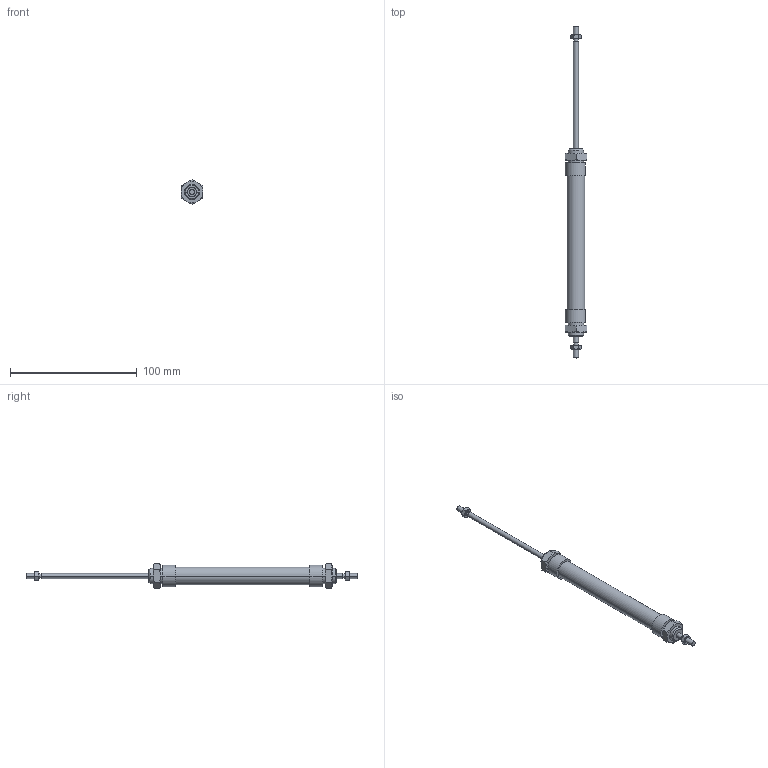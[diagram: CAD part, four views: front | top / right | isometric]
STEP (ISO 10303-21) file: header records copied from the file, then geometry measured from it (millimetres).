
FILE_DESCRIPTION((''),'2;1');
FILE_NAME('I:\DOC-EDP\Lib-3d\1200\CILINDRI\1262\1262_10_0080.stp','2003-04-02T18:57:21',('maffial1'),(''),'Autodesk Inventor (R) 6.0','Autodesk Inventor (R) 6.0','');
FILE_SCHEMA(('AUTOMOTIVE_DESIGN { 1 0 10303 214 1 1 1 1 }'));
Length unit declared in the file: millimetre
Products named in the file (5): 1262_10_0080; S1262_10_80; C1262_10_80; 1200_10_05; 1200_10_06
Assembly tree (6 placements, depth 2):
  1262_10_0080
    S1262_10_80
    C1262_10_80
    1200_10_05  x2
    1200_10_06  x2
Bounding box: 17 x 262 x 19.63 mm (x, y, z)
Volume: 26339.1 mm3; surface area: 14248 mm2
Topology: 6 solids, 6 shells, 170 faces, 356 edges, 208 vertices
Faces by surface type: cone 72, plane 46, bspline 30, cylinder 22
Entity records: 3247 total; most frequent: CARTESIAN_POINT 893, DIRECTION 490, ORIENTED_EDGE 456, EDGE_CURVE 228, AXIS2_PLACEMENT_3D 209, VERTEX_POINT 136, EDGE_LOOP 126, FACE_OUTER_BOUND 110
